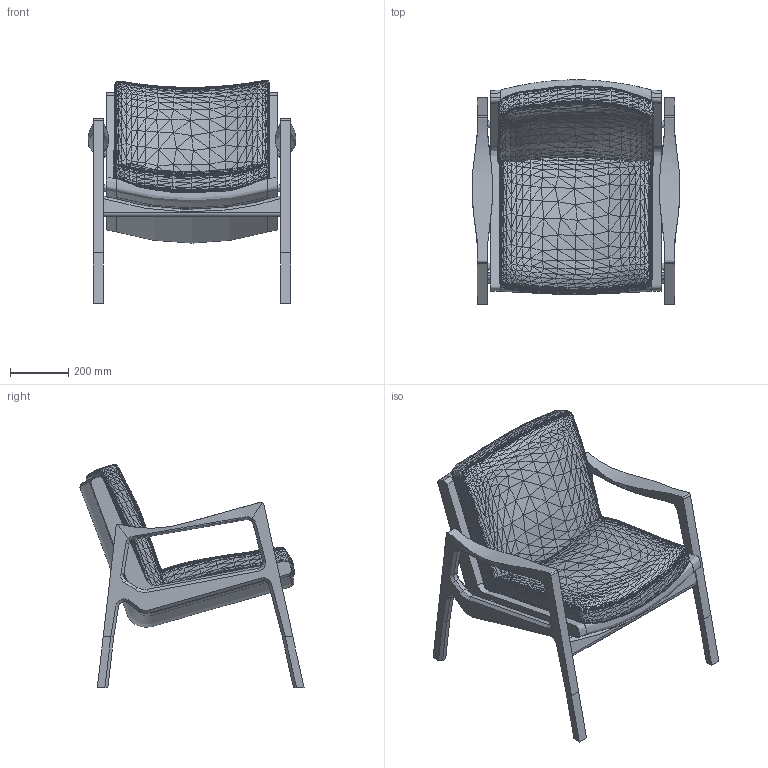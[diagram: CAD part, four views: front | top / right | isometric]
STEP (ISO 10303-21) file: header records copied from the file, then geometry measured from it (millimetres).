
FILE_DESCRIPTION(/* description */ (''),/* implementation_level */ '2;1');
FILE_NAME(/* name */ 'ClassiCon_EUVIRA-LOUNGE-CHAIR_3D_20250627',/* time_stamp */ '2025-06-27T15:53:55+02:00',/* author */ (''),/* organization */ (''),/* preprocessor_version */ 'ST-DEVELOPER v19.2',/* originating_system */ 'Rhino 8.20',/* authorisation */ '');
FILE_SCHEMA (('CONFIG_CONTROL_DESIGN'));
Products named in the file (1): Document
Bounding box: 714.99 x 771.75 x 769.21 mm (x, y, z)
Volume: 83883307.6 mm3; surface area: 3654147.6 mm2
Topology: 6 solids, 8 shells, 8406 faces, 12780 edges, 4384 vertices
Faces by surface type: plane 8299, bspline 60, cylinder 47
Entity records: 183310 total; most frequent: CARTESIAN_POINT 77195, ORIENTED_EDGE 25532, EDGE_CURVE 12784, B_SPLINE_CURVE_WITH_KNOTS 12694, DIRECTION 8464, EDGE_LOOP 8418, ADVANCED_FACE 8406, FACE_OUTER_BOUND 8406
